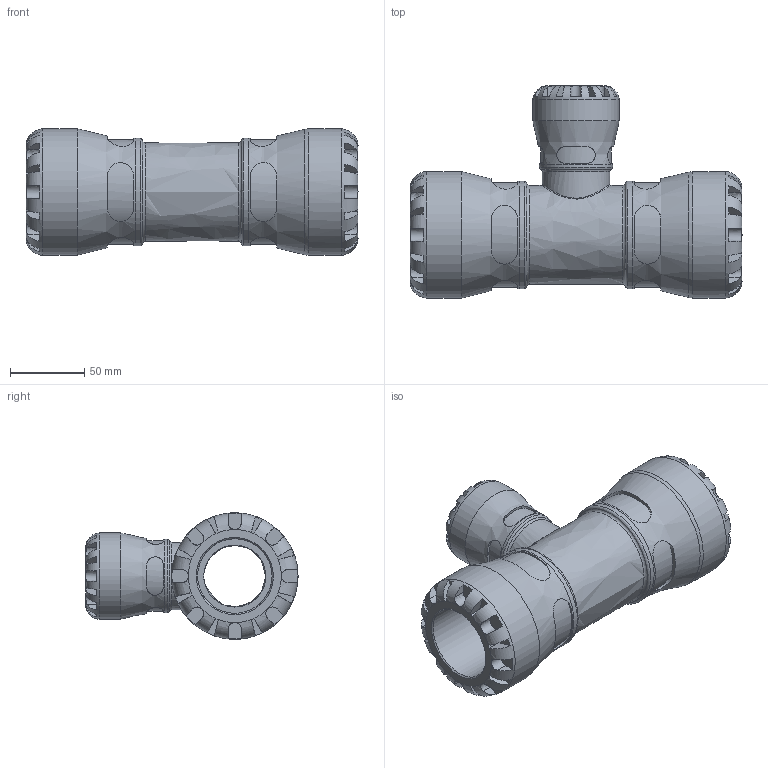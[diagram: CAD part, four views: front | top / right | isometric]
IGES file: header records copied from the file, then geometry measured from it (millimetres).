
Global section: file name: 153400050032; native system: Autodesk Inventor 2019; preprocessor: unknown; author: KIM; date: 20231021.225705; units: millimetre
Bounding box: 223 x 142.5 x 84.93 mm (x, y, z)
Volume: 667118.4 mm3; surface area: 120231.7 mm2
Topology: 1 solids, 1 shells, 287 faces, 760 edges, 488 vertices
Faces by surface type: bspline 287
